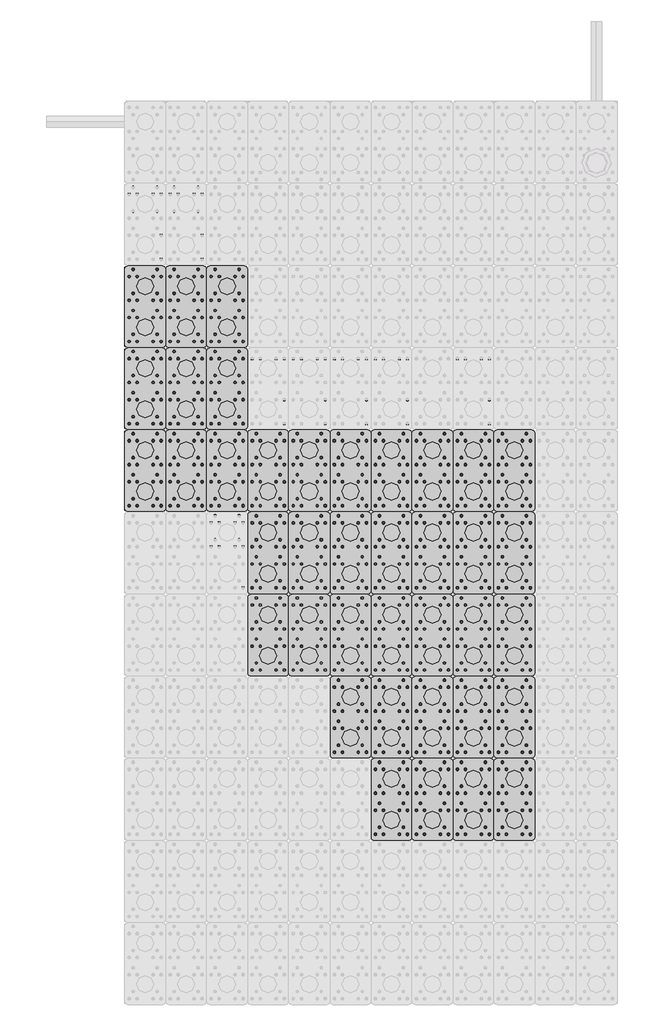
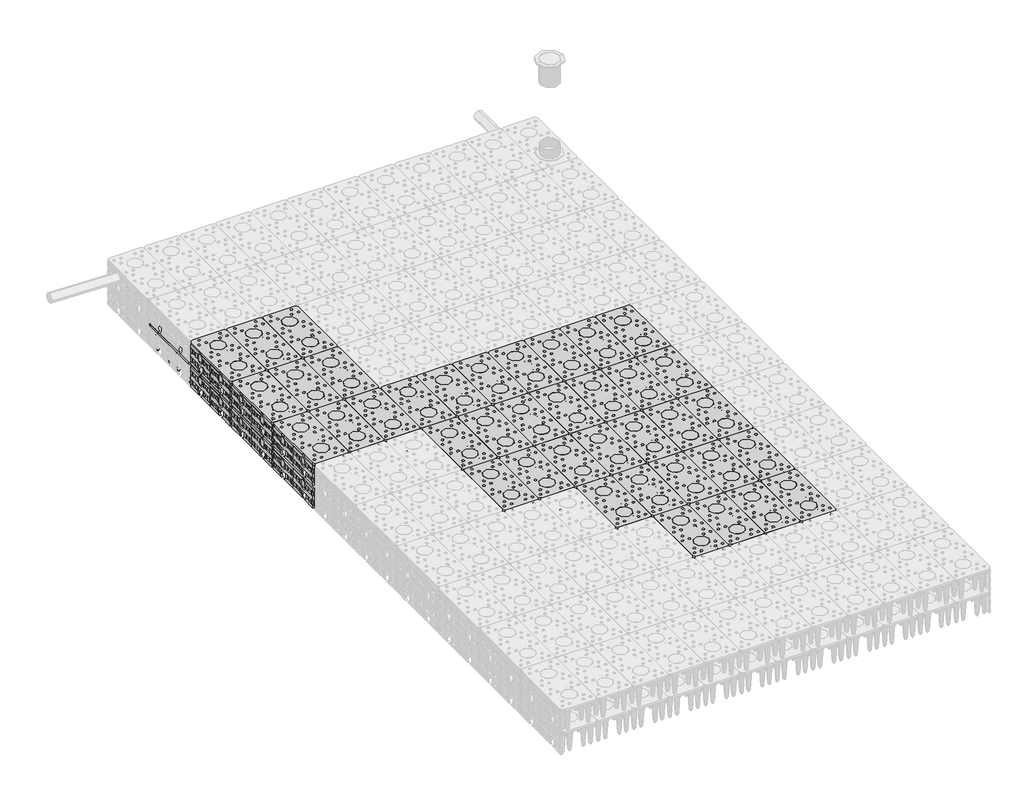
# One storey, part 3 of 6: 80 unitary equipment elements.
"""IFC4 building model written with IfcOpenShell, lengths in millimetres."""

from ifc_helpers import new_model, si_unit, origin, place, context, project, spatial, transform, mapped, element, save
from components import std_5ed7479e, std_ece4d7e7, std_5641c3e3

model = new_model("IFC4")

# Units and contexts
model_context = context("Model", 3, world=origin())
ifc_project = project(units=[si_unit("LENGTHUNIT", "METRE", prefix="MILLI")], contexts=[model_context])

# Site, building, storey
site = spatial("IfcSite", under=ifc_project)
building = spatial("IfcBuilding", under=site)
storey = spatial("IfcBuildingStorey", under=building, Name="Aquacell", Elevation=-2300.0)

# Unitary equipment
placement = place(None, origin())
std_shape = std_5ed7479e(model_context)
element("IfcUnitaryEquipment", 1, ObjectType="Z_ME_UN_Aquacell_NG_Lateral_Side_Plate_Wavin_(nested) : std", at=placement, inside=storey, context=model_context, shape_type="MappedRepresentation", body=[
    mapped(std_shape, transform((2486.051096, 5160.7779398, -1906.0), x_axis=(0.0, -1.0000000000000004, 0.0), y_axis=(1.0000000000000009, 0.0, 0.0), z_axis=(0.0, 0.0, 1.0000000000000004))),
])
element("IfcUnitaryEquipment", 2, ObjectType="Z_ME_UN_Aquacell_NG_Lateral_Side_Plate_Wavin_(nested) : std", at=placement, inside=storey, context=model_context, shape_type="MappedRepresentation", body=[
    mapped(std_shape, transform((2486.051096, 6360.7779398, -2306.0), x_axis=(0.0, -1.0000000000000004, 0.0), y_axis=(1.0000000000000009, 0.0, 0.0), z_axis=(0.0, 0.0, 1.0000000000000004))),
])
element("IfcUnitaryEquipment", 3, ObjectType="Z_ME_UN_Aquacell_NG_Lateral_Side_Plate_Wavin_(nested) : std", at=placement, inside=storey, context=model_context, shape_type="MappedRepresentation", body=[
    mapped(std_shape, transform((2486.051096, 7560.7779398, -2306.0), x_axis=(0.0, -1.0000000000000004, 0.0), y_axis=(1.0000000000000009, 0.0, 0.0), z_axis=(0.0, 0.0, 1.0000000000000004))),
])
element("IfcUnitaryEquipment", 4, ObjectType="Z_ME_UN_Aquacell_NG_Lateral_Side_Plate_Wavin_(nested) : std", at=placement, inside=storey, context=model_context, shape_type="MappedRepresentation", body=[
    mapped(std_shape, transform((2486.051096, 7560.7779398, -1906.0), x_axis=(0.0, -1.0000000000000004, 0.0), y_axis=(1.0000000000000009, 0.0, 0.0), z_axis=(0.0, 0.0, 1.0000000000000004))),
])
element("IfcUnitaryEquipment", 5, ObjectType="Z_ME_UN_Aquacell_NG_Lateral_Side_Plate_Wavin_(nested) : std", at=placement, inside=storey, context=model_context, shape_type="MappedRepresentation", body=[
    mapped(std_shape, transform((2486.051096, 5160.7779398, -2306.0), x_axis=(0.0, -1.0000000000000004, 0.0), y_axis=(1.0000000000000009, 0.0, 0.0), z_axis=(0.0, 0.0, 1.0000000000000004))),
])
element("IfcUnitaryEquipment", 6, ObjectType="Z_ME_UN_Aquacell_NG_Lateral_Side_Plate_Wavin_(nested) : std", at=placement, inside=storey, context=model_context, shape_type="MappedRepresentation", body=[
    mapped(std_shape, transform((2486.051096, 6360.7779398, -1906.0), x_axis=(0.0, -1.0000000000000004, 0.0), y_axis=(1.0000000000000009, 0.0, 0.0), z_axis=(0.0, 0.0, 1.0000000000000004))),
])
std_2_shape = std_ece4d7e7(model_context)
std_3_shape = std_5641c3e3(model_context)
element("IfcUnitaryEquipment", 7, ObjectType="Z_ME_UN_Aquacell_NG_Infiltration_Unit_Wavin_(nested) : std", at=placement, inside=storey, context=model_context, shape_type="MappedRepresentation", body=[
    mapped(std_2_shape, transform((7886.051096, 360.7779398, -2475.0), x_axis=(0.0, 1.0, 0.0), y_axis=(-1.0000000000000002, 0.0, 0.0), z_axis=(0.0, 0.0, 1.0000000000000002))),
    mapped(std_3_shape, transform((7886.051096, 360.7779398, -2475.0), x_axis=(0.0, 1.0, 0.0), y_axis=(-1.0000000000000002, 0.0, 0.0), z_axis=(0.0, 0.0, 1.0000000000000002))),
])
element("IfcUnitaryEquipment", 8, ObjectType="Z_ME_UN_Aquacell_NG_Infiltration_Unit_Wavin_(nested) : std", at=placement, inside=storey, context=model_context, shape_type="MappedRepresentation", body=[
    mapped(std_2_shape, transform((7886.051096, 1560.7779398, -2475.0), x_axis=(0.0, 1.0, 0.0), y_axis=(-1.0000000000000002, 0.0, 0.0), z_axis=(0.0, 0.0, 1.0000000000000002))),
    mapped(std_3_shape, transform((7886.051096, 1560.7779398, -2475.0), x_axis=(0.0, 1.0, 0.0), y_axis=(-1.0000000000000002, 0.0, 0.0), z_axis=(0.0, 0.0, 1.0000000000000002))),
])
element("IfcUnitaryEquipment", 9, ObjectType="Z_ME_UN_Aquacell_NG_Infiltration_Unit_Wavin_(nested) : std", at=placement, inside=storey, context=model_context, shape_type="MappedRepresentation", body=[
    mapped(std_2_shape, transform((7886.051096, 2760.7779398, -2475.0), x_axis=(0.0, 1.0, 0.0), y_axis=(-1.0000000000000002, 0.0, 0.0), z_axis=(0.0, 0.0, 1.0000000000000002))),
    mapped(std_3_shape, transform((7886.051096, 2760.7779398, -2475.0), x_axis=(0.0, 1.0, 0.0), y_axis=(-1.0000000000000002, 0.0, 0.0), z_axis=(0.0, 0.0, 1.0000000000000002))),
])
element("IfcUnitaryEquipment", 10, ObjectType="Z_ME_UN_Aquacell_NG_Infiltration_Unit_Wavin_(nested) : std", at=placement, inside=storey, context=model_context, shape_type="MappedRepresentation", body=[
    mapped(std_2_shape, transform((7886.051096, 3960.7779398, -2475.0), x_axis=(0.0, 1.0, 0.0), y_axis=(-1.0000000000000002, 0.0, 0.0), z_axis=(0.0, 0.0, 1.0000000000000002))),
    mapped(std_3_shape, transform((7886.051096, 3960.7779398, -2475.0), x_axis=(0.0, 1.0, 0.0), y_axis=(-1.0000000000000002, 0.0, 0.0), z_axis=(0.0, 0.0, 1.0000000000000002))),
])
element("IfcUnitaryEquipment", 11, ObjectType="Z_ME_UN_Aquacell_NG_Infiltration_Unit_Wavin_(nested) : std", at=placement, inside=storey, context=model_context, shape_type="MappedRepresentation", body=[
    mapped(std_2_shape, transform((7886.051096, 5160.7779398, -2475.0), x_axis=(0.0, 1.0, 0.0), y_axis=(-1.0000000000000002, 0.0, 0.0), z_axis=(0.0, 0.0, 1.0000000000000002))),
    mapped(std_3_shape, transform((7886.051096, 5160.7779398, -2475.0), x_axis=(0.0, 1.0, 0.0), y_axis=(-1.0000000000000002, 0.0, 0.0), z_axis=(0.0, 0.0, 1.0000000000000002))),
])
element("IfcUnitaryEquipment", 12, ObjectType="Z_ME_UN_Aquacell_NG_Infiltration_Unit_Wavin_(nested) : std", at=placement, inside=storey, context=model_context, shape_type="MappedRepresentation", body=[
    mapped(std_2_shape, transform((7286.051096, 360.7779398, -2475.0), x_axis=(0.0, 1.0, 0.0), y_axis=(-1.0000000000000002, 0.0, 0.0), z_axis=(0.0, 0.0, 1.0000000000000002))),
    mapped(std_3_shape, transform((7286.051096, 360.7779398, -2475.0), x_axis=(0.0, 1.0, 0.0), y_axis=(-1.0000000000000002, 0.0, 0.0), z_axis=(0.0, 0.0, 1.0000000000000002))),
])
element("IfcUnitaryEquipment", 13, ObjectType="Z_ME_UN_Aquacell_NG_Infiltration_Unit_Wavin_(nested) : std", at=placement, inside=storey, context=model_context, shape_type="MappedRepresentation", body=[
    mapped(std_2_shape, transform((7286.051096, 1560.7779398, -2475.0), x_axis=(0.0, 1.0, 0.0), y_axis=(-1.0000000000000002, 0.0, 0.0), z_axis=(0.0, 0.0, 1.0000000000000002))),
    mapped(std_3_shape, transform((7286.051096, 1560.7779398, -2475.0), x_axis=(0.0, 1.0, 0.0), y_axis=(-1.0000000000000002, 0.0, 0.0), z_axis=(0.0, 0.0, 1.0000000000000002))),
])
element("IfcUnitaryEquipment", 14, ObjectType="Z_ME_UN_Aquacell_NG_Infiltration_Unit_Wavin_(nested) : std", at=placement, inside=storey, context=model_context, shape_type="MappedRepresentation", body=[
    mapped(std_2_shape, transform((7286.051096, 2760.7779398, -2475.0), x_axis=(0.0, 1.0, 0.0), y_axis=(-1.0000000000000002, 0.0, 0.0), z_axis=(0.0, 0.0, 1.0000000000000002))),
    mapped(std_3_shape, transform((7286.051096, 2760.7779398, -2475.0), x_axis=(0.0, 1.0, 0.0), y_axis=(-1.0000000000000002, 0.0, 0.0), z_axis=(0.0, 0.0, 1.0000000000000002))),
])
element("IfcUnitaryEquipment", 15, ObjectType="Z_ME_UN_Aquacell_NG_Infiltration_Unit_Wavin_(nested) : std", at=placement, inside=storey, context=model_context, shape_type="MappedRepresentation", body=[
    mapped(std_2_shape, transform((7286.051096, 3960.7779398, -2475.0), x_axis=(0.0, 1.0, 0.0), y_axis=(-1.0000000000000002, 0.0, 0.0), z_axis=(0.0, 0.0, 1.0000000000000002))),
    mapped(std_3_shape, transform((7286.051096, 3960.7779398, -2475.0), x_axis=(0.0, 1.0, 0.0), y_axis=(-1.0000000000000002, 0.0, 0.0), z_axis=(0.0, 0.0, 1.0000000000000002))),
])
element("IfcUnitaryEquipment", 16, ObjectType="Z_ME_UN_Aquacell_NG_Infiltration_Unit_Wavin_(nested) : std", at=placement, inside=storey, context=model_context, shape_type="MappedRepresentation", body=[
    mapped(std_2_shape, transform((6686.051096, 360.7779398, -2475.0), x_axis=(0.0, 1.0, 0.0), y_axis=(-1.0000000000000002, 0.0, 0.0), z_axis=(0.0, 0.0, 1.0000000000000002))),
    mapped(std_3_shape, transform((6686.051096, 360.7779398, -2475.0), x_axis=(0.0, 1.0, 0.0), y_axis=(-1.0000000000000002, 0.0, 0.0), z_axis=(0.0, 0.0, 1.0000000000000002))),
])
element("IfcUnitaryEquipment", 17, ObjectType="Z_ME_UN_Aquacell_NG_Infiltration_Unit_Wavin_(nested) : std", at=placement, inside=storey, context=model_context, shape_type="MappedRepresentation", body=[
    mapped(std_2_shape, transform((6686.051096, 1560.7779398, -2475.0), x_axis=(0.0, 1.0, 0.0), y_axis=(-1.0000000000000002, 0.0, 0.0), z_axis=(0.0, 0.0, 1.0000000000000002))),
    mapped(std_3_shape, transform((6686.051096, 1560.7779398, -2475.0), x_axis=(0.0, 1.0, 0.0), y_axis=(-1.0000000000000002, 0.0, 0.0), z_axis=(0.0, 0.0, 1.0000000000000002))),
])
element("IfcUnitaryEquipment", 18, ObjectType="Z_ME_UN_Aquacell_NG_Infiltration_Unit_Wavin_(nested) : std", at=placement, inside=storey, context=model_context, shape_type="MappedRepresentation", body=[
    mapped(std_2_shape, transform((6686.051096, 2760.7779398, -2475.0), x_axis=(0.0, 1.0, 0.0), y_axis=(-1.0000000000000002, 0.0, 0.0), z_axis=(0.0, 0.0, 1.0000000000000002))),
    mapped(std_3_shape, transform((6686.051096, 2760.7779398, -2475.0), x_axis=(0.0, 1.0, 0.0), y_axis=(-1.0000000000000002, 0.0, 0.0), z_axis=(0.0, 0.0, 1.0000000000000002))),
])
element("IfcUnitaryEquipment", 19, ObjectType="Z_ME_UN_Aquacell_NG_Infiltration_Unit_Wavin_(nested) : std", at=placement, inside=storey, context=model_context, shape_type="MappedRepresentation", body=[
    mapped(std_2_shape, transform((6686.051096, 3960.7779398, -2475.0), x_axis=(0.0, 1.0, 0.0), y_axis=(-1.0000000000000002, 0.0, 0.0), z_axis=(0.0, 0.0, 1.0000000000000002))),
    mapped(std_3_shape, transform((6686.051096, 3960.7779398, -2475.0), x_axis=(0.0, 1.0, 0.0), y_axis=(-1.0000000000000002, 0.0, 0.0), z_axis=(0.0, 0.0, 1.0000000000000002))),
])
element("IfcUnitaryEquipment", 20, ObjectType="Z_ME_UN_Aquacell_NG_Infiltration_Unit_Wavin_(nested) : std", at=placement, inside=storey, context=model_context, shape_type="MappedRepresentation", body=[
    mapped(std_2_shape, transform((6686.051096, 5160.7779398, -2475.0), x_axis=(0.0, 1.0, 0.0), y_axis=(-1.0000000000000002, 0.0, 0.0), z_axis=(0.0, 0.0, 1.0000000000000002))),
    mapped(std_3_shape, transform((6686.051096, 5160.7779398, -2475.0), x_axis=(0.0, 1.0, 0.0), y_axis=(-1.0000000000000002, 0.0, 0.0), z_axis=(0.0, 0.0, 1.0000000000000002))),
])
element("IfcUnitaryEquipment", 21, ObjectType="Z_ME_UN_Aquacell_NG_Infiltration_Unit_Wavin_(nested) : std", at=placement, inside=storey, context=model_context, shape_type="MappedRepresentation", body=[
    mapped(std_2_shape, transform((6086.051096, 360.7779398, -2475.0), x_axis=(0.0, 1.0, 0.0), y_axis=(-1.0000000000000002, 0.0, 0.0), z_axis=(0.0, 0.0, 1.0000000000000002))),
    mapped(std_3_shape, transform((6086.051096, 360.7779398, -2475.0), x_axis=(0.0, 1.0, 0.0), y_axis=(-1.0000000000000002, 0.0, 0.0), z_axis=(0.0, 0.0, 1.0000000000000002))),
])
element("IfcUnitaryEquipment", 22, ObjectType="Z_ME_UN_Aquacell_NG_Infiltration_Unit_Wavin_(nested) : std", at=placement, inside=storey, context=model_context, shape_type="MappedRepresentation", body=[
    mapped(std_2_shape, transform((6086.051096, 1560.7779398, -2475.0), x_axis=(0.0, 1.0, 0.0), y_axis=(-1.0000000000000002, 0.0, 0.0), z_axis=(0.0, 0.0, 1.0000000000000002))),
    mapped(std_3_shape, transform((6086.051096, 1560.7779398, -2475.0), x_axis=(0.0, 1.0, 0.0), y_axis=(-1.0000000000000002, 0.0, 0.0), z_axis=(0.0, 0.0, 1.0000000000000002))),
])
element("IfcUnitaryEquipment", 23, ObjectType="Z_ME_UN_Aquacell_NG_Infiltration_Unit_Wavin_(nested) : std", at=placement, inside=storey, context=model_context, shape_type="MappedRepresentation", body=[
    mapped(std_2_shape, transform((6086.051096, 2760.7779398, -2475.0), x_axis=(0.0, 1.0, 0.0), y_axis=(-1.0000000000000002, 0.0, 0.0), z_axis=(0.0, 0.0, 1.0000000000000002))),
    mapped(std_3_shape, transform((6086.051096, 2760.7779398, -2475.0), x_axis=(0.0, 1.0, 0.0), y_axis=(-1.0000000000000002, 0.0, 0.0), z_axis=(0.0, 0.0, 1.0000000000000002))),
])
element("IfcUnitaryEquipment", 24, ObjectType="Z_ME_UN_Aquacell_NG_Infiltration_Unit_Wavin_(nested) : std", at=placement, inside=storey, context=model_context, shape_type="MappedRepresentation", body=[
    mapped(std_2_shape, transform((6086.051096, 3960.7779398, -2475.0), x_axis=(0.0, 1.0, 0.0), y_axis=(-1.0000000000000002, 0.0, 0.0), z_axis=(0.0, 0.0, 1.0000000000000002))),
    mapped(std_3_shape, transform((6086.051096, 3960.7779398, -2475.0), x_axis=(0.0, 1.0, 0.0), y_axis=(-1.0000000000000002, 0.0, 0.0), z_axis=(0.0, 0.0, 1.0000000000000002))),
])
element("IfcUnitaryEquipment", 25, ObjectType="Z_ME_UN_Aquacell_NG_Infiltration_Unit_Wavin_(nested) : std", at=placement, inside=storey, context=model_context, shape_type="MappedRepresentation", body=[
    mapped(std_2_shape, transform((6086.051096, 5160.7779398, -2475.0), x_axis=(0.0, 1.0, 0.0), y_axis=(-1.0000000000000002, 0.0, 0.0), z_axis=(0.0, 0.0, 1.0000000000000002))),
    mapped(std_3_shape, transform((6086.051096, 5160.7779398, -2475.0), x_axis=(0.0, 1.0, 0.0), y_axis=(-1.0000000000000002, 0.0, 0.0), z_axis=(0.0, 0.0, 1.0000000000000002))),
])
element("IfcUnitaryEquipment", 26, ObjectType="Z_ME_UN_Aquacell_NG_Infiltration_Unit_Wavin_(nested) : std", at=placement, inside=storey, context=model_context, shape_type="MappedRepresentation", body=[
    mapped(std_2_shape, transform((5486.051096, 1560.7779398, -2475.0), x_axis=(0.0, 1.0, 0.0), y_axis=(-1.0000000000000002, 0.0, 0.0), z_axis=(0.0, 0.0, 1.0000000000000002))),
    mapped(std_3_shape, transform((5486.051096, 1560.7779398, -2475.0), x_axis=(0.0, 1.0, 0.0), y_axis=(-1.0000000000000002, 0.0, 0.0), z_axis=(0.0, 0.0, 1.0000000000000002))),
])
element("IfcUnitaryEquipment", 27, ObjectType="Z_ME_UN_Aquacell_NG_Infiltration_Unit_Wavin_(nested) : std", at=placement, inside=storey, context=model_context, shape_type="MappedRepresentation", body=[
    mapped(std_2_shape, transform((5486.051096, 2760.7779398, -2475.0), x_axis=(0.0, 1.0, 0.0), y_axis=(-1.0000000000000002, 0.0, 0.0), z_axis=(0.0, 0.0, 1.0000000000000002))),
    mapped(std_3_shape, transform((5486.051096, 2760.7779398, -2475.0), x_axis=(0.0, 1.0, 0.0), y_axis=(-1.0000000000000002, 0.0, 0.0), z_axis=(0.0, 0.0, 1.0000000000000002))),
])
element("IfcUnitaryEquipment", 28, ObjectType="Z_ME_UN_Aquacell_NG_Infiltration_Unit_Wavin_(nested) : std", at=placement, inside=storey, context=model_context, shape_type="MappedRepresentation", body=[
    mapped(std_2_shape, transform((5486.051096, 3960.7779398, -2475.0), x_axis=(0.0, 1.0, 0.0), y_axis=(-1.0000000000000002, 0.0, 0.0), z_axis=(0.0, 0.0, 1.0000000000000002))),
    mapped(std_3_shape, transform((5486.051096, 3960.7779398, -2475.0), x_axis=(0.0, 1.0, 0.0), y_axis=(-1.0000000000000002, 0.0, 0.0), z_axis=(0.0, 0.0, 1.0000000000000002))),
])
element("IfcUnitaryEquipment", 29, ObjectType="Z_ME_UN_Aquacell_NG_Infiltration_Unit_Wavin_(nested) : std", at=placement, inside=storey, context=model_context, shape_type="MappedRepresentation", body=[
    mapped(std_2_shape, transform((5486.051096, 5160.7779398, -2475.0), x_axis=(0.0, 1.0, 0.0), y_axis=(-1.0000000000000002, 0.0, 0.0), z_axis=(0.0, 0.0, 1.0000000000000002))),
    mapped(std_3_shape, transform((5486.051096, 5160.7779398, -2475.0), x_axis=(0.0, 1.0, 0.0), y_axis=(-1.0000000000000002, 0.0, 0.0), z_axis=(0.0, 0.0, 1.0000000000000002))),
])
element("IfcUnitaryEquipment", 30, ObjectType="Z_ME_UN_Aquacell_NG_Infiltration_Unit_Wavin_(nested) : std", at=placement, inside=storey, context=model_context, shape_type="MappedRepresentation", body=[
    mapped(std_2_shape, transform((4886.051096, 2760.7779398, -2475.0), x_axis=(0.0, 1.0, 0.0), y_axis=(-1.0000000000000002, 0.0, 0.0), z_axis=(0.0, 0.0, 1.0000000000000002))),
    mapped(std_3_shape, transform((4886.051096, 2760.7779398, -2475.0), x_axis=(0.0, 1.0, 0.0), y_axis=(-1.0000000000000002, 0.0, 0.0), z_axis=(0.0, 0.0, 1.0000000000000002))),
])
element("IfcUnitaryEquipment", 31, ObjectType="Z_ME_UN_Aquacell_NG_Infiltration_Unit_Wavin_(nested) : std", at=placement, inside=storey, context=model_context, shape_type="MappedRepresentation", body=[
    mapped(std_2_shape, transform((4886.051096, 3960.7779398, -2475.0), x_axis=(0.0, 1.0, 0.0), y_axis=(-1.0000000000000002, 0.0, 0.0), z_axis=(0.0, 0.0, 1.0000000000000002))),
    mapped(std_3_shape, transform((4886.051096, 3960.7779398, -2475.0), x_axis=(0.0, 1.0, 0.0), y_axis=(-1.0000000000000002, 0.0, 0.0), z_axis=(0.0, 0.0, 1.0000000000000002))),
])
element("IfcUnitaryEquipment", 32, ObjectType="Z_ME_UN_Aquacell_NG_Infiltration_Unit_Wavin_(nested) : std", at=placement, inside=storey, context=model_context, shape_type="MappedRepresentation", body=[
    mapped(std_2_shape, transform((4886.051096, 5160.7779398, -2475.0), x_axis=(0.0, 1.0, 0.0), y_axis=(-1.0000000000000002, 0.0, 0.0), z_axis=(0.0, 0.0, 1.0000000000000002))),
    mapped(std_3_shape, transform((4886.051096, 5160.7779398, -2475.0), x_axis=(0.0, 1.0, 0.0), y_axis=(-1.0000000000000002, 0.0, 0.0), z_axis=(0.0, 0.0, 1.0000000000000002))),
])
element("IfcUnitaryEquipment", 33, ObjectType="Z_ME_UN_Aquacell_NG_Infiltration_Unit_Wavin_(nested) : std", at=placement, inside=storey, context=model_context, shape_type="MappedRepresentation", body=[
    mapped(std_2_shape, transform((4286.051096, 2760.7779398, -2475.0), x_axis=(0.0, 1.0, 0.0), y_axis=(-1.0000000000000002, 0.0, 0.0), z_axis=(0.0, 0.0, 1.0000000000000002))),
    mapped(std_3_shape, transform((4286.051096, 2760.7779398, -2475.0), x_axis=(0.0, 1.0, 0.0), y_axis=(-1.0000000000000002, 0.0, 0.0), z_axis=(0.0, 0.0, 1.0000000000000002))),
])
element("IfcUnitaryEquipment", 34, ObjectType="Z_ME_UN_Aquacell_NG_Infiltration_Unit_Wavin_(nested) : std", at=placement, inside=storey, context=model_context, shape_type="MappedRepresentation", body=[
    mapped(std_2_shape, transform((4286.051096, 3960.7779398, -2475.0), x_axis=(0.0, 1.0, 0.0), y_axis=(-1.0000000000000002, 0.0, 0.0), z_axis=(0.0, 0.0, 1.0000000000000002))),
    mapped(std_3_shape, transform((4286.051096, 3960.7779398, -2475.0), x_axis=(0.0, 1.0, 0.0), y_axis=(-1.0000000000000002, 0.0, 0.0), z_axis=(0.0, 0.0, 1.0000000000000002))),
])
element("IfcUnitaryEquipment", 35, ObjectType="Z_ME_UN_Aquacell_NG_Infiltration_Unit_Wavin_(nested) : std", at=placement, inside=storey, context=model_context, shape_type="MappedRepresentation", body=[
    mapped(std_2_shape, transform((4286.051096, 5160.7779398, -2475.0), x_axis=(0.0, 1.0, 0.0), y_axis=(-1.0000000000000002, 0.0, 0.0), z_axis=(0.0, 0.0, 1.0000000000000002))),
    mapped(std_3_shape, transform((4286.051096, 5160.7779398, -2475.0), x_axis=(0.0, 1.0, 0.0), y_axis=(-1.0000000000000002, 0.0, 0.0), z_axis=(0.0, 0.0, 1.0000000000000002))),
])
element("IfcUnitaryEquipment", 36, ObjectType="Z_ME_UN_Aquacell_NG_Infiltration_Unit_Wavin_(nested) : std", at=placement, inside=storey, context=model_context, shape_type="MappedRepresentation", body=[
    mapped(std_2_shape, transform((3686.051096, 5160.7779398, -2475.0), x_axis=(0.0, 1.0, 0.0), y_axis=(-1.0000000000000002, 0.0, 0.0), z_axis=(0.0, 0.0, 1.0000000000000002))),
    mapped(std_3_shape, transform((3686.051096, 5160.7779398, -2475.0), x_axis=(0.0, 1.0, 0.0), y_axis=(-1.0000000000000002, 0.0, 0.0), z_axis=(0.0, 0.0, 1.0000000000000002))),
])
element("IfcUnitaryEquipment", 37, ObjectType="Z_ME_UN_Aquacell_NG_Infiltration_Unit_Wavin_(nested) : std", at=placement, inside=storey, context=model_context, shape_type="MappedRepresentation", body=[
    mapped(std_2_shape, transform((3686.051096, 6360.7779398, -2475.0), x_axis=(0.0, 1.0, 0.0), y_axis=(-1.0000000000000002, 0.0, 0.0), z_axis=(0.0, 0.0, 1.0000000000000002))),
    mapped(std_3_shape, transform((3686.051096, 6360.7779398, -2475.0), x_axis=(0.0, 1.0, 0.0), y_axis=(-1.0000000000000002, 0.0, 0.0), z_axis=(0.0, 0.0, 1.0000000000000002))),
])
element("IfcUnitaryEquipment", 38, ObjectType="Z_ME_UN_Aquacell_NG_Infiltration_Unit_Wavin_(nested) : std", at=placement, inside=storey, context=model_context, shape_type="MappedRepresentation", body=[
    mapped(std_2_shape, transform((3686.051096, 7560.7779398, -2475.0), x_axis=(0.0, 1.0, 0.0), y_axis=(-1.0000000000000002, 0.0, 0.0), z_axis=(0.0, 0.0, 1.0000000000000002))),
    mapped(std_3_shape, transform((3686.051096, 7560.7779398, -2475.0), x_axis=(0.0, 1.0, 0.0), y_axis=(-1.0000000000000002, 0.0, 0.0), z_axis=(0.0, 0.0, 1.0000000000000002))),
])
element("IfcUnitaryEquipment", 39, ObjectType="Z_ME_UN_Aquacell_NG_Infiltration_Unit_Wavin_(nested) : std", at=placement, inside=storey, context=model_context, shape_type="MappedRepresentation", body=[
    mapped(std_2_shape, transform((3086.051096, 5160.7779398, -2475.0), x_axis=(0.0, 1.0, 0.0), y_axis=(-1.0000000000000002, 0.0, 0.0), z_axis=(0.0, 0.0, 1.0000000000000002))),
    mapped(std_3_shape, transform((3086.051096, 5160.7779398, -2475.0), x_axis=(0.0, 1.0, 0.0), y_axis=(-1.0000000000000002, 0.0, 0.0), z_axis=(0.0, 0.0, 1.0000000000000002))),
])
element("IfcUnitaryEquipment", 40, ObjectType="Z_ME_UN_Aquacell_NG_Infiltration_Unit_Wavin_(nested) : std", at=placement, inside=storey, context=model_context, shape_type="MappedRepresentation", body=[
    mapped(std_2_shape, transform((3086.051096, 6360.7779398, -2475.0), x_axis=(0.0, 1.0, 0.0), y_axis=(-1.0000000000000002, 0.0, 0.0), z_axis=(0.0, 0.0, 1.0000000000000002))),
    mapped(std_3_shape, transform((3086.051096, 6360.7779398, -2475.0), x_axis=(0.0, 1.0, 0.0), y_axis=(-1.0000000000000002, 0.0, 0.0), z_axis=(0.0, 0.0, 1.0000000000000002))),
])
element("IfcUnitaryEquipment", 41, ObjectType="Z_ME_UN_Aquacell_NG_Infiltration_Unit_Wavin_(nested) : std", at=placement, inside=storey, context=model_context, shape_type="MappedRepresentation", body=[
    mapped(std_2_shape, transform((3086.051096, 7560.7779398, -2475.0), x_axis=(0.0, 1.0, 0.0), y_axis=(-1.0000000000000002, 0.0, 0.0), z_axis=(0.0, 0.0, 1.0000000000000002))),
    mapped(std_3_shape, transform((3086.051096, 7560.7779398, -2475.0), x_axis=(0.0, 1.0, 0.0), y_axis=(-1.0000000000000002, 0.0, 0.0), z_axis=(0.0, 0.0, 1.0000000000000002))),
])
element("IfcUnitaryEquipment", 42, ObjectType="Z_ME_UN_Aquacell_NG_Infiltration_Unit_Wavin_(nested) : std", at=placement, inside=storey, context=model_context, shape_type="MappedRepresentation", body=[
    mapped(std_2_shape, transform((7886.051096, 360.7779398, -2075.0), x_axis=(0.0, -1.0, 0.0), y_axis=(1.0000000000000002, 0.0, 0.0), z_axis=(0.0, 0.0, 1.0000000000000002))),
    mapped(std_3_shape, transform((7886.051096, 360.7779398, -2075.0), x_axis=(0.0, -1.0, 0.0), y_axis=(1.0000000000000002, 0.0, 0.0), z_axis=(0.0, 0.0, 1.0000000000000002))),
])
element("IfcUnitaryEquipment", 43, ObjectType="Z_ME_UN_Aquacell_NG_Infiltration_Unit_Wavin_(nested) : std", at=placement, inside=storey, context=model_context, shape_type="MappedRepresentation", body=[
    mapped(std_2_shape, transform((7886.051096, 1560.7779398, -2075.0), x_axis=(0.0, -1.0, 0.0), y_axis=(1.0000000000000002, 0.0, 0.0), z_axis=(0.0, 0.0, 1.0000000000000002))),
    mapped(std_3_shape, transform((7886.051096, 1560.7779398, -2075.0), x_axis=(0.0, -1.0, 0.0), y_axis=(1.0000000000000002, 0.0, 0.0), z_axis=(0.0, 0.0, 1.0000000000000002))),
])
element("IfcUnitaryEquipment", 44, ObjectType="Z_ME_UN_Aquacell_NG_Infiltration_Unit_Wavin_(nested) : std", at=placement, inside=storey, context=model_context, shape_type="MappedRepresentation", body=[
    mapped(std_2_shape, transform((7886.051096, 2760.7779398, -2075.0), x_axis=(0.0, -1.0, 0.0), y_axis=(1.0000000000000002, 0.0, 0.0), z_axis=(0.0, 0.0, 1.0000000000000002))),
    mapped(std_3_shape, transform((7886.051096, 2760.7779398, -2075.0), x_axis=(0.0, -1.0, 0.0), y_axis=(1.0000000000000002, 0.0, 0.0), z_axis=(0.0, 0.0, 1.0000000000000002))),
])
element("IfcUnitaryEquipment", 45, ObjectType="Z_ME_UN_Aquacell_NG_Infiltration_Unit_Wavin_(nested) : std", at=placement, inside=storey, context=model_context, shape_type="MappedRepresentation", body=[
    mapped(std_2_shape, transform((7886.051096, 3960.7779398, -2075.0), x_axis=(0.0, -1.0, 0.0), y_axis=(1.0000000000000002, 0.0, 0.0), z_axis=(0.0, 0.0, 1.0000000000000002))),
    mapped(std_3_shape, transform((7886.051096, 3960.7779398, -2075.0), x_axis=(0.0, -1.0, 0.0), y_axis=(1.0000000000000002, 0.0, 0.0), z_axis=(0.0, 0.0, 1.0000000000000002))),
])
element("IfcUnitaryEquipment", 46, ObjectType="Z_ME_UN_Aquacell_NG_Infiltration_Unit_Wavin_(nested) : std", at=placement, inside=storey, context=model_context, shape_type="MappedRepresentation", body=[
    mapped(std_2_shape, transform((7886.051096, 5160.7779398, -2075.0), x_axis=(0.0, -1.0, 0.0), y_axis=(1.0000000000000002, 0.0, 0.0), z_axis=(0.0, 0.0, 1.0000000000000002))),
    mapped(std_3_shape, transform((7886.051096, 5160.7779398, -2075.0), x_axis=(0.0, -1.0, 0.0), y_axis=(1.0000000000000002, 0.0, 0.0), z_axis=(0.0, 0.0, 1.0000000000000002))),
])
element("IfcUnitaryEquipment", 47, ObjectType="Z_ME_UN_Aquacell_NG_Infiltration_Unit_Wavin_(nested) : std", at=placement, inside=storey, context=model_context, shape_type="MappedRepresentation", body=[
    mapped(std_2_shape, transform((7286.051096, 360.7779398, -2075.0), x_axis=(0.0, -1.0, 0.0), y_axis=(1.0000000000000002, 0.0, 0.0), z_axis=(0.0, 0.0, 1.0000000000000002))),
    mapped(std_3_shape, transform((7286.051096, 360.7779398, -2075.0), x_axis=(0.0, -1.0, 0.0), y_axis=(1.0000000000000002, 0.0, 0.0), z_axis=(0.0, 0.0, 1.0000000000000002))),
])
element("IfcUnitaryEquipment", 48, ObjectType="Z_ME_UN_Aquacell_NG_Infiltration_Unit_Wavin_(nested) : std", at=placement, inside=storey, context=model_context, shape_type="MappedRepresentation", body=[
    mapped(std_2_shape, transform((7286.051096, 1560.7779398, -2075.0), x_axis=(0.0, -1.0, 0.0), y_axis=(1.0000000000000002, 0.0, 0.0), z_axis=(0.0, 0.0, 1.0000000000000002))),
    mapped(std_3_shape, transform((7286.051096, 1560.7779398, -2075.0), x_axis=(0.0, -1.0, 0.0), y_axis=(1.0000000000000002, 0.0, 0.0), z_axis=(0.0, 0.0, 1.0000000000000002))),
])
element("IfcUnitaryEquipment", 49, ObjectType="Z_ME_UN_Aquacell_NG_Infiltration_Unit_Wavin_(nested) : std", at=placement, inside=storey, context=model_context, shape_type="MappedRepresentation", body=[
    mapped(std_2_shape, transform((7286.051096, 2760.7779398, -2075.0), x_axis=(0.0, -1.0, 0.0), y_axis=(1.0000000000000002, 0.0, 0.0), z_axis=(0.0, 0.0, 1.0000000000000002))),
    mapped(std_3_shape, transform((7286.051096, 2760.7779398, -2075.0), x_axis=(0.0, -1.0, 0.0), y_axis=(1.0000000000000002, 0.0, 0.0), z_axis=(0.0, 0.0, 1.0000000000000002))),
])
element("IfcUnitaryEquipment", 50, ObjectType="Z_ME_UN_Aquacell_NG_Infiltration_Unit_Wavin_(nested) : std", at=placement, inside=storey, context=model_context, shape_type="MappedRepresentation", body=[
    mapped(std_2_shape, transform((7286.051096, 3960.7779398, -2075.0), x_axis=(0.0, -1.0, 0.0), y_axis=(1.0000000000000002, 0.0, 0.0), z_axis=(0.0, 0.0, 1.0000000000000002))),
    mapped(std_3_shape, transform((7286.051096, 3960.7779398, -2075.0), x_axis=(0.0, -1.0, 0.0), y_axis=(1.0000000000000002, 0.0, 0.0), z_axis=(0.0, 0.0, 1.0000000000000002))),
])
element("IfcUnitaryEquipment", 51, ObjectType="Z_ME_UN_Aquacell_NG_Infiltration_Unit_Wavin_(nested) : std", at=placement, inside=storey, context=model_context, shape_type="MappedRepresentation", body=[
    mapped(std_2_shape, transform((7286.051096, 5160.7779398, -2075.0), x_axis=(0.0, -1.0, 0.0), y_axis=(1.0000000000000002, 0.0, 0.0), z_axis=(0.0, 0.0, 1.0000000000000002))),
    mapped(std_3_shape, transform((7286.051096, 5160.7779398, -2075.0), x_axis=(0.0, -1.0, 0.0), y_axis=(1.0000000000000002, 0.0, 0.0), z_axis=(0.0, 0.0, 1.0000000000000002))),
])
element("IfcUnitaryEquipment", 52, ObjectType="Z_ME_UN_Aquacell_NG_Infiltration_Unit_Wavin_(nested) : std", at=placement, inside=storey, context=model_context, shape_type="MappedRepresentation", body=[
    mapped(std_2_shape, transform((6686.051096, 360.7779398, -2075.0), x_axis=(0.0, -1.0, 0.0), y_axis=(1.0000000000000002, 0.0, 0.0), z_axis=(0.0, 0.0, 1.0000000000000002))),
    mapped(std_3_shape, transform((6686.051096, 360.7779398, -2075.0), x_axis=(0.0, -1.0, 0.0), y_axis=(1.0000000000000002, 0.0, 0.0), z_axis=(0.0, 0.0, 1.0000000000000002))),
])
element("IfcUnitaryEquipment", 53, ObjectType="Z_ME_UN_Aquacell_NG_Infiltration_Unit_Wavin_(nested) : std", at=placement, inside=storey, context=model_context, shape_type="MappedRepresentation", body=[
    mapped(std_2_shape, transform((6686.051096, 1560.7779398, -2075.0), x_axis=(0.0, -1.0, 0.0), y_axis=(1.0000000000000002, 0.0, 0.0), z_axis=(0.0, 0.0, 1.0000000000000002))),
    mapped(std_3_shape, transform((6686.051096, 1560.7779398, -2075.0), x_axis=(0.0, -1.0, 0.0), y_axis=(1.0000000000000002, 0.0, 0.0), z_axis=(0.0, 0.0, 1.0000000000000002))),
])
element("IfcUnitaryEquipment", 54, ObjectType="Z_ME_UN_Aquacell_NG_Infiltration_Unit_Wavin_(nested) : std", at=placement, inside=storey, context=model_context, shape_type="MappedRepresentation", body=[
    mapped(std_2_shape, transform((6686.051096, 2760.7779398, -2075.0), x_axis=(0.0, -1.0, 0.0), y_axis=(1.0000000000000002, 0.0, 0.0), z_axis=(0.0, 0.0, 1.0000000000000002))),
    mapped(std_3_shape, transform((6686.051096, 2760.7779398, -2075.0), x_axis=(0.0, -1.0, 0.0), y_axis=(1.0000000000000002, 0.0, 0.0), z_axis=(0.0, 0.0, 1.0000000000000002))),
])
element("IfcUnitaryEquipment", 55, ObjectType="Z_ME_UN_Aquacell_NG_Infiltration_Unit_Wavin_(nested) : std", at=placement, inside=storey, context=model_context, shape_type="MappedRepresentation", body=[
    mapped(std_2_shape, transform((6686.051096, 3960.7779398, -2075.0), x_axis=(0.0, -1.0, 0.0), y_axis=(1.0000000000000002, 0.0, 0.0), z_axis=(0.0, 0.0, 1.0000000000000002))),
    mapped(std_3_shape, transform((6686.051096, 3960.7779398, -2075.0), x_axis=(0.0, -1.0, 0.0), y_axis=(1.0000000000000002, 0.0, 0.0), z_axis=(0.0, 0.0, 1.0000000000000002))),
])
element("IfcUnitaryEquipment", 56, ObjectType="Z_ME_UN_Aquacell_NG_Infiltration_Unit_Wavin_(nested) : std", at=placement, inside=storey, context=model_context, shape_type="MappedRepresentation", body=[
    mapped(std_2_shape, transform((6686.051096, 5160.7779398, -2075.0), x_axis=(0.0, -1.0, 0.0), y_axis=(1.0000000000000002, 0.0, 0.0), z_axis=(0.0, 0.0, 1.0000000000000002))),
    mapped(std_3_shape, transform((6686.051096, 5160.7779398, -2075.0), x_axis=(0.0, -1.0, 0.0), y_axis=(1.0000000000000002, 0.0, 0.0), z_axis=(0.0, 0.0, 1.0000000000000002))),
])
element("IfcUnitaryEquipment", 57, ObjectType="Z_ME_UN_Aquacell_NG_Infiltration_Unit_Wavin_(nested) : std", at=placement, inside=storey, context=model_context, shape_type="MappedRepresentation", body=[
    mapped(std_2_shape, transform((6086.051096, 360.7779398, -2075.0), x_axis=(0.0, -1.0, 0.0), y_axis=(1.0000000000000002, 0.0, 0.0), z_axis=(0.0, 0.0, 1.0000000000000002))),
    mapped(std_3_shape, transform((6086.051096, 360.7779398, -2075.0), x_axis=(0.0, -1.0, 0.0), y_axis=(1.0000000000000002, 0.0, 0.0), z_axis=(0.0, 0.0, 1.0000000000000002))),
])
element("IfcUnitaryEquipment", 58, ObjectType="Z_ME_UN_Aquacell_NG_Infiltration_Unit_Wavin_(nested) : std", at=placement, inside=storey, context=model_context, shape_type="MappedRepresentation", body=[
    mapped(std_2_shape, transform((6086.051096, 1560.7779398, -2075.0), x_axis=(0.0, -1.0, 0.0), y_axis=(1.0000000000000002, 0.0, 0.0), z_axis=(0.0, 0.0, 1.0000000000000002))),
    mapped(std_3_shape, transform((6086.051096, 1560.7779398, -2075.0), x_axis=(0.0, -1.0, 0.0), y_axis=(1.0000000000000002, 0.0, 0.0), z_axis=(0.0, 0.0, 1.0000000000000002))),
])
element("IfcUnitaryEquipment", 59, ObjectType="Z_ME_UN_Aquacell_NG_Infiltration_Unit_Wavin_(nested) : std", at=placement, inside=storey, context=model_context, shape_type="MappedRepresentation", body=[
    mapped(std_2_shape, transform((6086.051096, 2760.7779398, -2075.0), x_axis=(0.0, -1.0, 0.0), y_axis=(1.0000000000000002, 0.0, 0.0), z_axis=(0.0, 0.0, 1.0000000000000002))),
    mapped(std_3_shape, transform((6086.051096, 2760.7779398, -2075.0), x_axis=(0.0, -1.0, 0.0), y_axis=(1.0000000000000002, 0.0, 0.0), z_axis=(0.0, 0.0, 1.0000000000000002))),
])
element("IfcUnitaryEquipment", 60, ObjectType="Z_ME_UN_Aquacell_NG_Infiltration_Unit_Wavin_(nested) : std", at=placement, inside=storey, context=model_context, shape_type="MappedRepresentation", body=[
    mapped(std_2_shape, transform((6086.051096, 3960.7779398, -2075.0), x_axis=(0.0, -1.0, 0.0), y_axis=(1.0000000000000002, 0.0, 0.0), z_axis=(0.0, 0.0, 1.0000000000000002))),
    mapped(std_3_shape, transform((6086.051096, 3960.7779398, -2075.0), x_axis=(0.0, -1.0, 0.0), y_axis=(1.0000000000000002, 0.0, 0.0), z_axis=(0.0, 0.0, 1.0000000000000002))),
])
element("IfcUnitaryEquipment", 61, ObjectType="Z_ME_UN_Aquacell_NG_Infiltration_Unit_Wavin_(nested) : std", at=placement, inside=storey, context=model_context, shape_type="MappedRepresentation", body=[
    mapped(std_2_shape, transform((6086.051096, 5160.7779398, -2075.0), x_axis=(0.0, -1.0, 0.0), y_axis=(1.0000000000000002, 0.0, 0.0), z_axis=(0.0, 0.0, 1.0000000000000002))),
    mapped(std_3_shape, transform((6086.051096, 5160.7779398, -2075.0), x_axis=(0.0, -1.0, 0.0), y_axis=(1.0000000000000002, 0.0, 0.0), z_axis=(0.0, 0.0, 1.0000000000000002))),
])
element("IfcUnitaryEquipment", 62, ObjectType="Z_ME_UN_Aquacell_NG_Infiltration_Unit_Wavin_(nested) : std", at=placement, inside=storey, context=model_context, shape_type="MappedRepresentation", body=[
    mapped(std_2_shape, transform((5486.051096, 1560.7779398, -2075.0), x_axis=(0.0, -1.0, 0.0), y_axis=(1.0000000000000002, 0.0, 0.0), z_axis=(0.0, 0.0, 1.0000000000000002))),
    mapped(std_3_shape, transform((5486.051096, 1560.7779398, -2075.0), x_axis=(0.0, -1.0, 0.0), y_axis=(1.0000000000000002, 0.0, 0.0), z_axis=(0.0, 0.0, 1.0000000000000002))),
])
element("IfcUnitaryEquipment", 63, ObjectType="Z_ME_UN_Aquacell_NG_Infiltration_Unit_Wavin_(nested) : std", at=placement, inside=storey, context=model_context, shape_type="MappedRepresentation", body=[
    mapped(std_2_shape, transform((5486.051096, 2760.7779398, -2075.0), x_axis=(0.0, -1.0, 0.0), y_axis=(1.0000000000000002, 0.0, 0.0), z_axis=(0.0, 0.0, 1.0000000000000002))),
    mapped(std_3_shape, transform((5486.051096, 2760.7779398, -2075.0), x_axis=(0.0, -1.0, 0.0), y_axis=(1.0000000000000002, 0.0, 0.0), z_axis=(0.0, 0.0, 1.0000000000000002))),
])
element("IfcUnitaryEquipment", 64, ObjectType="Z_ME_UN_Aquacell_NG_Infiltration_Unit_Wavin_(nested) : std", at=placement, inside=storey, context=model_context, shape_type="MappedRepresentation", body=[
    mapped(std_2_shape, transform((5486.051096, 3960.7779398, -2075.0), x_axis=(0.0, -1.0, 0.0), y_axis=(1.0000000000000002, 0.0, 0.0), z_axis=(0.0, 0.0, 1.0000000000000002))),
    mapped(std_3_shape, transform((5486.051096, 3960.7779398, -2075.0), x_axis=(0.0, -1.0, 0.0), y_axis=(1.0000000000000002, 0.0, 0.0), z_axis=(0.0, 0.0, 1.0000000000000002))),
])
element("IfcUnitaryEquipment", 65, ObjectType="Z_ME_UN_Aquacell_NG_Infiltration_Unit_Wavin_(nested) : std", at=placement, inside=storey, context=model_context, shape_type="MappedRepresentation", body=[
    mapped(std_2_shape, transform((5486.051096, 5160.7779398, -2075.0), x_axis=(0.0, -1.0, 0.0), y_axis=(1.0000000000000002, 0.0, 0.0), z_axis=(0.0, 0.0, 1.0000000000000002))),
    mapped(std_3_shape, transform((5486.051096, 5160.7779398, -2075.0), x_axis=(0.0, -1.0, 0.0), y_axis=(1.0000000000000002, 0.0, 0.0), z_axis=(0.0, 0.0, 1.0000000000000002))),
])
element("IfcUnitaryEquipment", 66, ObjectType="Z_ME_UN_Aquacell_NG_Infiltration_Unit_Wavin_(nested) : std", at=placement, inside=storey, context=model_context, shape_type="MappedRepresentation", body=[
    mapped(std_2_shape, transform((4886.051096, 2760.7779398, -2075.0), x_axis=(0.0, -1.0, 0.0), y_axis=(1.0000000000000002, 0.0, 0.0), z_axis=(0.0, 0.0, 1.0000000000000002))),
    mapped(std_3_shape, transform((4886.051096, 2760.7779398, -2075.0), x_axis=(0.0, -1.0, 0.0), y_axis=(1.0000000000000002, 0.0, 0.0), z_axis=(0.0, 0.0, 1.0000000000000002))),
])
element("IfcUnitaryEquipment", 67, ObjectType="Z_ME_UN_Aquacell_NG_Infiltration_Unit_Wavin_(nested) : std", at=placement, inside=storey, context=model_context, shape_type="MappedRepresentation", body=[
    mapped(std_2_shape, transform((4886.051096, 3960.7779398, -2075.0), x_axis=(0.0, -1.0, 0.0), y_axis=(1.0000000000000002, 0.0, 0.0), z_axis=(0.0, 0.0, 1.0000000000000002))),
    mapped(std_3_shape, transform((4886.051096, 3960.7779398, -2075.0), x_axis=(0.0, -1.0, 0.0), y_axis=(1.0000000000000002, 0.0, 0.0), z_axis=(0.0, 0.0, 1.0000000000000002))),
])
element("IfcUnitaryEquipment", 68, ObjectType="Z_ME_UN_Aquacell_NG_Infiltration_Unit_Wavin_(nested) : std", at=placement, inside=storey, context=model_context, shape_type="MappedRepresentation", body=[
    mapped(std_2_shape, transform((4886.051096, 5160.7779398, -2075.0), x_axis=(0.0, -1.0, 0.0), y_axis=(1.0000000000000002, 0.0, 0.0), z_axis=(0.0, 0.0, 1.0000000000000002))),
    mapped(std_3_shape, transform((4886.051096, 5160.7779398, -2075.0), x_axis=(0.0, -1.0, 0.0), y_axis=(1.0000000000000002, 0.0, 0.0), z_axis=(0.0, 0.0, 1.0000000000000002))),
])
element("IfcUnitaryEquipment", 69, ObjectType="Z_ME_UN_Aquacell_NG_Infiltration_Unit_Wavin_(nested) : std", at=placement, inside=storey, context=model_context, shape_type="MappedRepresentation", body=[
    mapped(std_2_shape, transform((4286.051096, 2760.7779398, -2075.0), x_axis=(0.0, -1.0, 0.0), y_axis=(1.0000000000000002, 0.0, 0.0), z_axis=(0.0, 0.0, 1.0000000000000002))),
    mapped(std_3_shape, transform((4286.051096, 2760.7779398, -2075.0), x_axis=(0.0, -1.0, 0.0), y_axis=(1.0000000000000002, 0.0, 0.0), z_axis=(0.0, 0.0, 1.0000000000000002))),
])
element("IfcUnitaryEquipment", 70, ObjectType="Z_ME_UN_Aquacell_NG_Infiltration_Unit_Wavin_(nested) : std", at=placement, inside=storey, context=model_context, shape_type="MappedRepresentation", body=[
    mapped(std_2_shape, transform((4286.051096, 3960.7779398, -2075.0), x_axis=(0.0, -1.0, 0.0), y_axis=(1.0000000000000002, 0.0, 0.0), z_axis=(0.0, 0.0, 1.0000000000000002))),
    mapped(std_3_shape, transform((4286.051096, 3960.7779398, -2075.0), x_axis=(0.0, -1.0, 0.0), y_axis=(1.0000000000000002, 0.0, 0.0), z_axis=(0.0, 0.0, 1.0000000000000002))),
])
element("IfcUnitaryEquipment", 71, ObjectType="Z_ME_UN_Aquacell_NG_Infiltration_Unit_Wavin_(nested) : std", at=placement, inside=storey, context=model_context, shape_type="MappedRepresentation", body=[
    mapped(std_2_shape, transform((4286.051096, 5160.7779398, -2075.0), x_axis=(0.0, -1.0, 0.0), y_axis=(1.0000000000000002, 0.0, 0.0), z_axis=(0.0, 0.0, 1.0000000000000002))),
    mapped(std_3_shape, transform((4286.051096, 5160.7779398, -2075.0), x_axis=(0.0, -1.0, 0.0), y_axis=(1.0000000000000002, 0.0, 0.0), z_axis=(0.0, 0.0, 1.0000000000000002))),
])
element("IfcUnitaryEquipment", 72, ObjectType="Z_ME_UN_Aquacell_NG_Infiltration_Unit_Wavin_(nested) : std", at=placement, inside=storey, context=model_context, shape_type="MappedRepresentation", body=[
    mapped(std_2_shape, transform((3686.051096, 5160.7779398, -2075.0), x_axis=(0.0, -1.0, 0.0), y_axis=(1.0000000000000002, 0.0, 0.0), z_axis=(0.0, 0.0, 1.0000000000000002))),
    mapped(std_3_shape, transform((3686.051096, 5160.7779398, -2075.0), x_axis=(0.0, -1.0, 0.0), y_axis=(1.0000000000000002, 0.0, 0.0), z_axis=(0.0, 0.0, 1.0000000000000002))),
])
element("IfcUnitaryEquipment", 73, ObjectType="Z_ME_UN_Aquacell_NG_Infiltration_Unit_Wavin_(nested) : std", at=placement, inside=storey, context=model_context, shape_type="MappedRepresentation", body=[
    mapped(std_2_shape, transform((3686.051096, 6360.7779398, -2075.0), x_axis=(0.0, -1.0, 0.0), y_axis=(1.0000000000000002, 0.0, 0.0), z_axis=(0.0, 0.0, 1.0000000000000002))),
    mapped(std_3_shape, transform((3686.051096, 6360.7779398, -2075.0), x_axis=(0.0, -1.0, 0.0), y_axis=(1.0000000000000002, 0.0, 0.0), z_axis=(0.0, 0.0, 1.0000000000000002))),
])
element("IfcUnitaryEquipment", 74, ObjectType="Z_ME_UN_Aquacell_NG_Infiltration_Unit_Wavin_(nested) : std", at=placement, inside=storey, context=model_context, shape_type="MappedRepresentation", body=[
    mapped(std_2_shape, transform((3686.051096, 7560.7779398, -2075.0), x_axis=(0.0, -1.0, 0.0), y_axis=(1.0000000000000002, 0.0, 0.0), z_axis=(0.0, 0.0, 1.0000000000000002))),
    mapped(std_3_shape, transform((3686.051096, 7560.7779398, -2075.0), x_axis=(0.0, -1.0, 0.0), y_axis=(1.0000000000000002, 0.0, 0.0), z_axis=(0.0, 0.0, 1.0000000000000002))),
])
element("IfcUnitaryEquipment", 75, ObjectType="Z_ME_UN_Aquacell_NG_Infiltration_Unit_Wavin_(nested) : std", at=placement, inside=storey, context=model_context, shape_type="MappedRepresentation", body=[
    mapped(std_2_shape, transform((3086.051096, 5160.7779398, -2075.0), x_axis=(0.0, -1.0, 0.0), y_axis=(1.0000000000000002, 0.0, 0.0), z_axis=(0.0, 0.0, 1.0000000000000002))),
    mapped(std_3_shape, transform((3086.051096, 5160.7779398, -2075.0), x_axis=(0.0, -1.0, 0.0), y_axis=(1.0000000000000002, 0.0, 0.0), z_axis=(0.0, 0.0, 1.0000000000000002))),
])
element("IfcUnitaryEquipment", 76, ObjectType="Z_ME_UN_Aquacell_NG_Infiltration_Unit_Wavin_(nested) : std", at=placement, inside=storey, context=model_context, shape_type="MappedRepresentation", body=[
    mapped(std_2_shape, transform((3086.051096, 6360.7779398, -2075.0), x_axis=(0.0, -1.0, 0.0), y_axis=(1.0000000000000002, 0.0, 0.0), z_axis=(0.0, 0.0, 1.0000000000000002))),
    mapped(std_3_shape, transform((3086.051096, 6360.7779398, -2075.0), x_axis=(0.0, -1.0, 0.0), y_axis=(1.0000000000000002, 0.0, 0.0), z_axis=(0.0, 0.0, 1.0000000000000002))),
])
element("IfcUnitaryEquipment", 77, ObjectType="Z_ME_UN_Aquacell_NG_Infiltration_Unit_Wavin_(nested) : std", at=placement, inside=storey, context=model_context, shape_type="MappedRepresentation", body=[
    mapped(std_2_shape, transform((3086.051096, 7560.7779398, -2075.0), x_axis=(0.0, -1.0, 0.0), y_axis=(1.0000000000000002, 0.0, 0.0), z_axis=(0.0, 0.0, 1.0000000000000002))),
    mapped(std_3_shape, transform((3086.051096, 7560.7779398, -2075.0), x_axis=(0.0, -1.0, 0.0), y_axis=(1.0000000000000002, 0.0, 0.0), z_axis=(0.0, 0.0, 1.0000000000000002))),
])
element("IfcUnitaryEquipment", 78, ObjectType="Z_ME_UN_Aquacell_NG_Infiltration_Unit_Wavin_(nested) : std", at=placement, inside=storey, context=model_context, shape_type="MappedRepresentation", body=[
    mapped(std_2_shape, transform((2486.051096, 5160.7779398, -2075.0), x_axis=(0.0, -1.0, 0.0), y_axis=(1.0000000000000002, 0.0, 0.0), z_axis=(0.0, 0.0, 1.0000000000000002))),
    mapped(std_3_shape, transform((2486.051096, 5160.7779398, -2075.0), x_axis=(0.0, -1.0, 0.0), y_axis=(1.0000000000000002, 0.0, 0.0), z_axis=(0.0, 0.0, 1.0000000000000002))),
])
element("IfcUnitaryEquipment", 79, ObjectType="Z_ME_UN_Aquacell_NG_Infiltration_Unit_Wavin_(nested) : std", at=placement, inside=storey, context=model_context, shape_type="MappedRepresentation", body=[
    mapped(std_2_shape, transform((2486.051096, 6360.7779398, -2075.0), x_axis=(0.0, -1.0, 0.0), y_axis=(1.0000000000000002, 0.0, 0.0), z_axis=(0.0, 0.0, 1.0000000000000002))),
    mapped(std_3_shape, transform((2486.051096, 6360.7779398, -2075.0), x_axis=(0.0, -1.0, 0.0), y_axis=(1.0000000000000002, 0.0, 0.0), z_axis=(0.0, 0.0, 1.0000000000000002))),
])
element("IfcUnitaryEquipment", 80, ObjectType="Z_ME_UN_Aquacell_NG_Infiltration_Unit_Wavin_(nested) : std", at=placement, inside=storey, context=model_context, shape_type="MappedRepresentation", body=[
    mapped(std_2_shape, transform((2486.051096, 7560.7779398, -2075.0), x_axis=(0.0, -1.0, 0.0), y_axis=(1.0000000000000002, 0.0, 0.0), z_axis=(0.0, 0.0, 1.0000000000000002))),
    mapped(std_3_shape, transform((2486.051096, 7560.7779398, -2075.0), x_axis=(0.0, -1.0, 0.0), y_axis=(1.0000000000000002, 0.0, 0.0), z_axis=(0.0, 0.0, 1.0000000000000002))),
])

save(model, "model.ifc")
